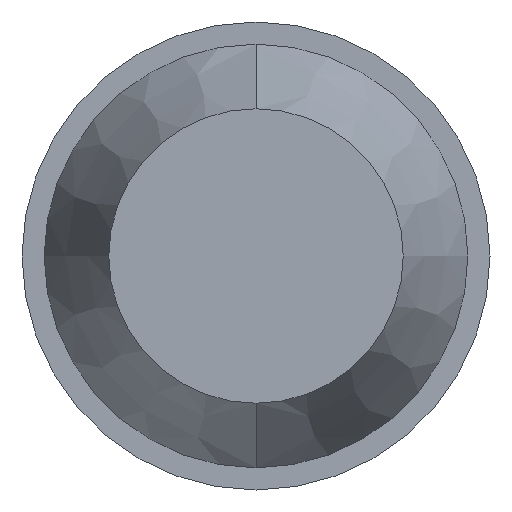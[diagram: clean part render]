
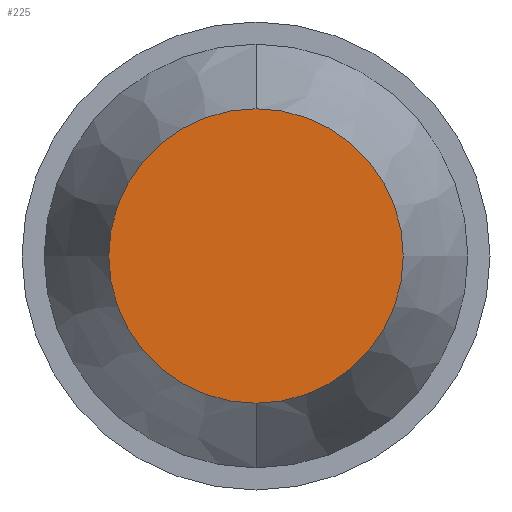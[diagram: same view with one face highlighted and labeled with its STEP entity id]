
A CAD part, front view. The second image highlights one B-rep face of the part: STEP entity #225.
In plain terms, the highlighted planar face has unit normal (0, -1, 0).
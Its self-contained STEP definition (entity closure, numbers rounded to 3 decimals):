
#10 = ORIENTED_EDGE ( 'NONE', *, *, #91, .T. ) ;
#28 = EDGE_LOOP ( 'NONE', ( #134, #10 ) ) ;
#39 = VERTEX_POINT ( 'NONE', #145 ) ;
#40 = VERTEX_POINT ( 'NONE', #149 ) ;
#83 = AXIS2_PLACEMENT_3D ( 'NONE', #275, #271, #270 ) ;
#84 = AXIS2_PLACEMENT_3D ( 'NONE', #269, #276, #166 ) ;
#91 = EDGE_CURVE ( 'NONE', #39, #40, #383, .T. ) ;
#94 = EDGE_CURVE ( 'NONE', #40, #39, #381, .T. ) ;
#134 = ORIENTED_EDGE ( 'NONE', *, *, #94, .T. ) ;
#145 = CARTESIAN_POINT ( 'NONE',  ( 0., 0., -18.25 ) ) ;
#149 = CARTESIAN_POINT ( 'NONE',  ( 0., 0., 18.25 ) ) ;
#166 = DIRECTION ( 'NONE',  ( 0., 0., -1. ) ) ;
#181 = CARTESIAN_POINT ( 'NONE',  ( 0., 0., -14. ) ) ;
#183 = PLANE ( 'NONE',  #297 ) ;
#185 = DIRECTION ( 'NONE',  ( 0., -1., 0. ) ) ;
#186 = DIRECTION ( 'NONE',  ( 0., 0., -1. ) ) ;
#225 = ADVANCED_FACE ( 'NONE', ( #316 ), #183, .T. ) ;
#269 = CARTESIAN_POINT ( 'NONE',  ( 0., 0., 0. ) ) ;
#270 = DIRECTION ( 'NONE',  ( 0., 0., -1. ) ) ;
#271 = DIRECTION ( 'NONE',  ( 0., -1., 0. ) ) ;
#275 = CARTESIAN_POINT ( 'NONE',  ( 0., 0., 0. ) ) ;
#276 = DIRECTION ( 'NONE',  ( 0., -1., 0. ) ) ;
#297 = AXIS2_PLACEMENT_3D ( 'NONE', #181, #185, #186 ) ;
#316 = FACE_OUTER_BOUND ( 'NONE', #28, .T. ) ;
#381 = CIRCLE ( 'NONE', #84, 18.25 ) ;
#383 = CIRCLE ( 'NONE', #83, 18.25 ) ;
